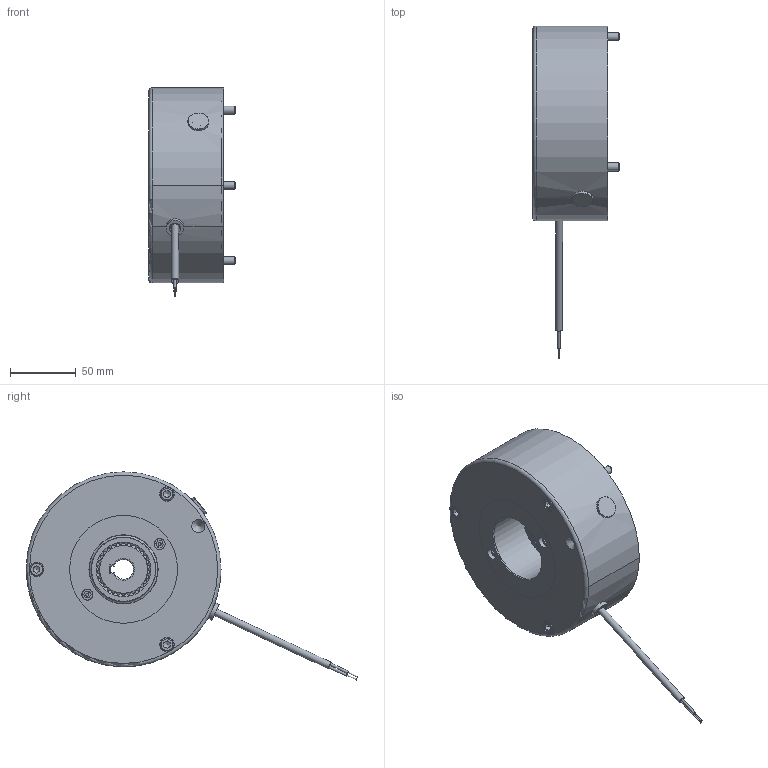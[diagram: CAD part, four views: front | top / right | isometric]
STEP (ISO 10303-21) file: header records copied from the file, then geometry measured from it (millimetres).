
FILE_DESCRIPTION(/* description */ (''),/* implementation_level */ '2;1');
FILE_NAME(/* name */ 'C:\SapWorkDir\Inventor\IP1\ConvertTempPath\5028778_IPT_000.ipt.stp',/* time_stamp */ '2020-09-17T15:02:20+02:00',/* author */ ('STRATE'),/* organization */ (''),/* preprocessor_version */ 'ST-DEVELOPER v17',/* originating_system */ 'Autodesk Inventor 2018',/* authorisation */ '');
FILE_SCHEMA (('AUTOMOTIVE_DESIGN { 1 0 10303 214 3 1 1 }'));
Length unit declared in the file: millimetre
Products named in the file (1): 5028778
Bounding box: 66.3 x 251.95 x 158.11 mm (x, y, z)
Volume: 834910.2 mm3; surface area: 140903.6 mm2
Topology: 3 solids, 3 shells, 463 faces, 1277 edges, 863 vertices
Faces by surface type: cylinder 307, plane 110, cone 29, torus 17
Full cylindrical faces by diameter (mm): 0.01 x1, 1 x2, 1.85 x2, 5.3 x1, 5.5 x2, 6 x5, 6.2 x3, 6.28 x2, 6.5 x3, 6.6 x1, 7 x2, 7.2 x1, 8.376 x2, 8.5 x2, 8.8 x2, 9.9 x3, 10 x4, 11 x3, 13.2 x1, 16 x1, 52 x2, 69.5 x2, 70.1 x2, 82 x1, 115 x1, 140 x1, 146.2 x1
Entity records: 16470 total; most frequent: CARTESIAN_POINT 4065, ORIENTED_EDGE 2550, DIRECTION 2425, EDGE_CURVE 1275, AXIS2_PLACEMENT_3D 987, VERTEX_POINT 863, EDGE_LOOP 530, CIRCLE 523
